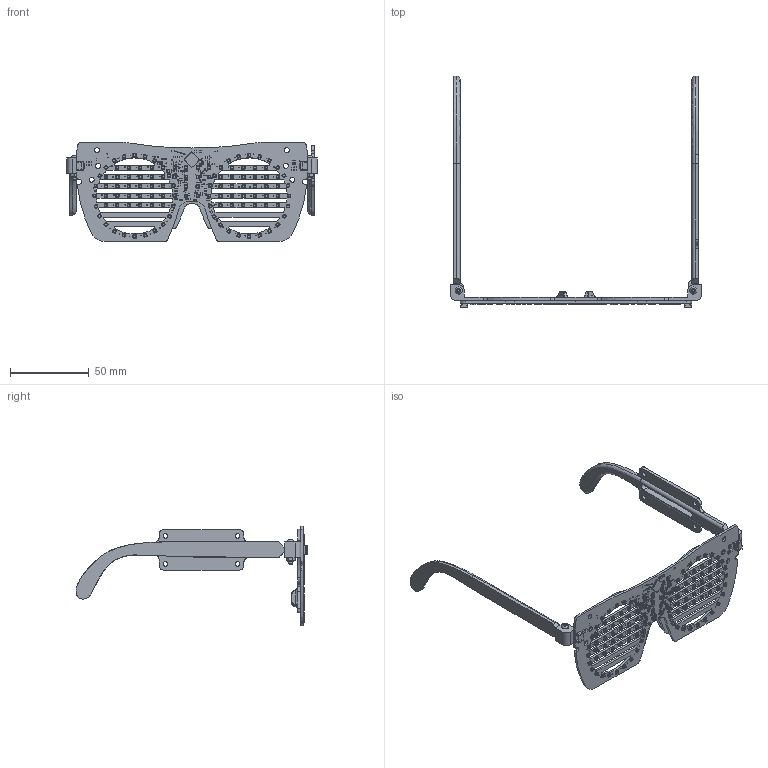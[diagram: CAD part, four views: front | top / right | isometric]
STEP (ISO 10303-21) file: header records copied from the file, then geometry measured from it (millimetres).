
FILE_DESCRIPTION(/* description */ (''),/* implementation_level */ '2;1');
FILE_NAME(/* name */ '/Users/purplemac/Dropbox/3D/Products/LED Glasses IS31FL3741/CAD/LED Glasses Frame v15.step',/* time_stamp */ '2021-09-21T10:32:40-04:00',/* author */ (''),/* organization */ (''),/* preprocessor_version */ 'ST-DEVELOPER v18.1',/* originating_system */ 'Autodesk Translation Framework v10.10.0.1391',/* authorisation */ '');
FILE_SCHEMA (('AUTOMOTIVE_DESIGN { 1 0 10303 214 3 1 1 }'));
Length unit declared in the file: millimetre
Products named in the file (17): LED Glasses Frame; LED Glasses rev B v2; PCB Component; Board; 10uF; IS31FL3741; 2.2K; RGBLED_CA_2121; STEMMA_I2C_QT; LED glasses frame_1; Arm Feather; Arm Right; hardware; 14mm set; m2.5 x 14; hinge nuts; m2.5 nut
Assembly tree (180 placements, depth 4):
  LED Glasses Frame
    LED Glasses rev B v2
      PCB Component
        Board
        10uF  x4
        IS31FL3741
        2.2K  x44
        RGBLED_CA_2121  x116
        STEMMA_I2C_QT  x2
    LED glasses frame_1
    Arm Feather
    Arm Right
    hardware
      14mm set
        m2.5 x 14  x2
      hinge nuts
        m2.5 nut  x2
Bounding box: 158.94 x 146.82 x 62.87 mm (x, y, z)
Volume: 28177.2 mm3; surface area: 34280.6 mm2
Topology: 699 solids, 699 shells, 7753 faces, 18124 edges, 11904 vertices
Faces by surface type: plane 7199, cylinder 475, bspline 39, cone 38, sphere 2
Full cylindrical faces by diameter (mm): 0.3 x1, 0.394 x193, 0.5 x4, 1.6 x116, 2.5 x4, 3 x4, 3.175 x6, 3.2 x6, 3.5 x2, 4.079 x2, 4.5 x2
Entity records: 42654 total; most frequent: CARTESIAN_POINT 9617, DIRECTION 6533, ORIENTED_EDGE 6294, EDGE_CURVE 3147, LINE 2269, VECTOR 2269, AXIS2_PLACEMENT_3D 2132, VERTEX_POINT 2081
